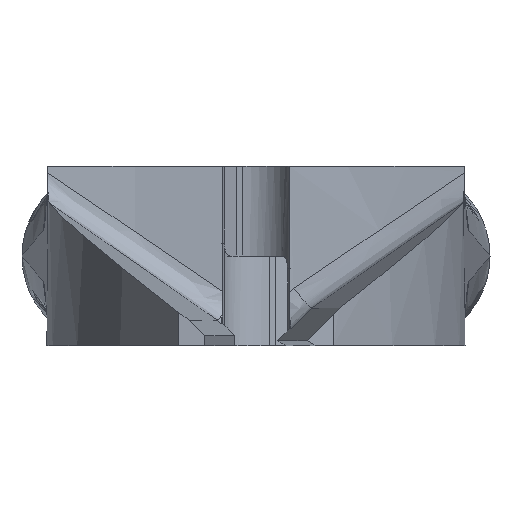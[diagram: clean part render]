
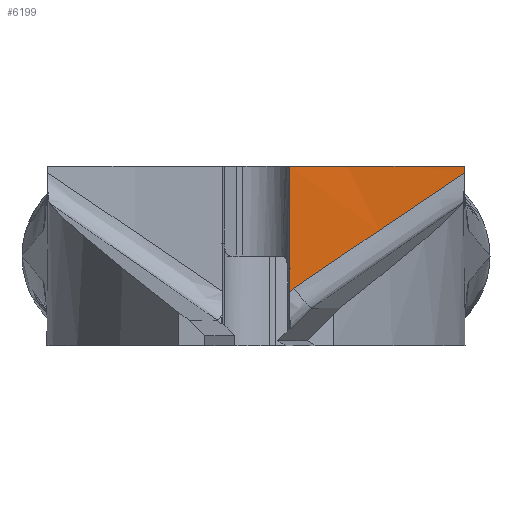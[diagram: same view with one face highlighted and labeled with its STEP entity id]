
A CAD part, left-side view. The second image highlights one B-rep face of the part: STEP entity #6199.
In plain terms, the highlighted cylindrical face has radius 37.5 mm (diameter 75 mm), a partial arc.
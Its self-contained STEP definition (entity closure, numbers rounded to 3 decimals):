
#116 = ORIENTED_EDGE ( 'NONE', *, *, #5447, .F. ) ;
#183 = VECTOR ( 'NONE', #2631, 1000. ) ;
#252 = CARTESIAN_POINT ( 'NONE',  ( -10.015, -0.464, 4.518 ) ) ;
#274 = VERTEX_POINT ( 'NONE', #795 ) ;
#277 = EDGE_CURVE ( 'NONE', #2011, #274, #3729, .T. ) ;
#795 = CARTESIAN_POINT ( 'NONE',  ( -10.72, -7.252, 6.743 ) ) ;
#1188 = ORIENTED_EDGE ( 'NONE', *, *, #1387, .T. ) ;
#1362 = DIRECTION ( 'NONE',  ( 0., 0., -1. ) ) ;
#1387 = EDGE_CURVE ( 'NONE', #6555, #4714, #6246, .T. ) ;
#1435 = EDGE_LOOP ( 'NONE', ( #6985, #1188, #4629, #7261, #116 ) ) ;
#1475 = CARTESIAN_POINT ( 'NONE',  ( -10.183, -3.577, 4.239 ) ) ;
#1593 = B_SPLINE_CURVE_WITH_KNOTS ( 'NONE', 3,
 ( #2028, #2623, #7202, #3767 ),
 .UNSPECIFIED., .F., .F.,
 ( 4, 4 ),
 ( 0., 1. ),
 .UNSPECIFIED. ) ;
#1889 = LINE ( 'NONE', #4358, #183 ) ;
#2011 = VERTEX_POINT ( 'NONE', #2024 ) ;
#2024 = CARTESIAN_POINT ( 'NONE',  ( -10.018, -0.635, 2.233 ) ) ;
#2028 = CARTESIAN_POINT ( 'NONE',  ( -10.018, -0.635, 2.233 ) ) ;
#2071 = CARTESIAN_POINT ( 'NONE',  ( -10.212, -3.866, 4.436 ) ) ;
#2228 = CARTESIAN_POINT ( 'NONE',  ( -10.018, -0.635, 2.233 ) ) ;
#2238 = CARTESIAN_POINT ( 'NONE',  ( -10.029, -1.323, 2.703 ) ) ;
#2465 = AXIS2_PLACEMENT_3D ( 'NONE', #3011, #7016, #3583 ) ;
#2500 = CARTESIAN_POINT ( 'NONE',  ( -10.015, -0.464, 2.066 ) ) ;
#2623 = CARTESIAN_POINT ( 'NONE',  ( -10.017, -0.578, 2.177 ) ) ;
#2631 = DIRECTION ( 'NONE',  ( 0., 0., -1. ) ) ;
#2667 = CARTESIAN_POINT ( 'NONE',  ( -10.219, -3.936, 4.483 ) ) ;
#2922 = CARTESIAN_POINT ( 'NONE',  ( -10.72, -7.252, 7. ) ) ;
#3011 = CARTESIAN_POINT ( 'NONE',  ( -47.512, 0., 7. ) ) ;
#3181 = VERTEX_POINT ( 'NONE', #2922 ) ;
#3190 = CARTESIAN_POINT ( 'NONE',  ( -47.512, 0., 2.036 ) ) ;
#3231 = CARTESIAN_POINT ( 'NONE',  ( -10.221, -3.952, 4.494 ) ) ;
#3583 = DIRECTION ( 'NONE',  ( 1., 0., 0. ) ) ;
#3729 = B_SPLINE_CURVE_WITH_KNOTS ( 'NONE', 3,
 ( #2228, #2238, #5678, #4862, #5161, #4945, #1475, #5519, #2071, #6097, #2667, #6663, #3231, #7240, #3811, #7363, #3935 ),
 .UNSPECIFIED., .F., .F.,
 ( 4, 2, 2, 1, 1, 1, 1, 1, 2, 2, 4 ),
 ( 0., 0.25, 0.375, 0.438, 0.469, 0.484, 0.492, 0.496, 0.498, 0.5, 1. ),
 .UNSPECIFIED. ) ;
#3767 = CARTESIAN_POINT ( 'NONE',  ( -10.015, -0.464, 2.066 ) ) ;
#3770 = DIRECTION ( 'NONE',  ( 0., 0., 1. ) ) ;
#3811 = CARTESIAN_POINT ( 'NONE',  ( -10.35, -5.172, 5.325 ) ) ;
#3935 = CARTESIAN_POINT ( 'NONE',  ( -10.72, -7.252, 6.743 ) ) ;
#4358 = CARTESIAN_POINT ( 'NONE',  ( -10.72, -7.252, 3.5 ) ) ;
#4584 = EDGE_CURVE ( 'NONE', #6555, #3181, #6118, .T. ) ;
#4629 = ORIENTED_EDGE ( 'NONE', *, *, #6106, .F. ) ;
#4678 = CYLINDRICAL_SURFACE ( 'NONE', #6849, 37.5 ) ;
#4714 = VERTEX_POINT ( 'NONE', #2500 ) ;
#4862 = CARTESIAN_POINT ( 'NONE',  ( -10.114, -2.776, 3.692 ) ) ;
#4908 = VECTOR ( 'NONE', #1362, 1000. ) ;
#4945 = CARTESIAN_POINT ( 'NONE',  ( -10.166, -3.401, 4.118 ) ) ;
#5161 = CARTESIAN_POINT ( 'NONE',  ( -10.134, -3.036, 3.87 ) ) ;
#5447 = EDGE_CURVE ( 'NONE', #3181, #274, #1889, .T. ) ;
#5519 = CARTESIAN_POINT ( 'NONE',  ( -10.202, -3.772, 4.371 ) ) ;
#5678 = CARTESIAN_POINT ( 'NONE',  ( -10.058, -1.945, 3.126 ) ) ;
#6097 = CARTESIAN_POINT ( 'NONE',  ( -10.217, -3.913, 4.467 ) ) ;
#6106 = EDGE_CURVE ( 'NONE', #2011, #4714, #1593, .T. ) ;
#6118 = CIRCLE ( 'NONE', #2465, 37.5 ) ;
#6199 = ADVANCED_FACE ( 'NONE', ( #6373 ), #4678, .F. ) ;
#6246 = LINE ( 'NONE', #252, #4908 ) ;
#6373 = FACE_OUTER_BOUND ( 'NONE', #1435, .T. ) ;
#6555 = VERTEX_POINT ( 'NONE', #6835 ) ;
#6623 = DIRECTION ( 'NONE',  ( 1., 0., 0. ) ) ;
#6663 = CARTESIAN_POINT ( 'NONE',  ( -10.22, -3.946, 4.49 ) ) ;
#6835 = CARTESIAN_POINT ( 'NONE',  ( -10.015, -0.464, 7. ) ) ;
#6849 = AXIS2_PLACEMENT_3D ( 'NONE', #3190, #3770, #6623 ) ;
#6985 = ORIENTED_EDGE ( 'NONE', *, *, #4584, .F. ) ;
#7016 = DIRECTION ( 'NONE',  ( 0., 0., -1. ) ) ;
#7202 = CARTESIAN_POINT ( 'NONE',  ( -10.016, -0.521, 2.121 ) ) ;
#7240 = CARTESIAN_POINT ( 'NONE',  ( -10.221, -3.954, 4.495 ) ) ;
#7261 = ORIENTED_EDGE ( 'NONE', *, *, #277, .T. ) ;
#7363 = CARTESIAN_POINT ( 'NONE',  ( -10.526, -6.269, 6.074 ) ) ;
